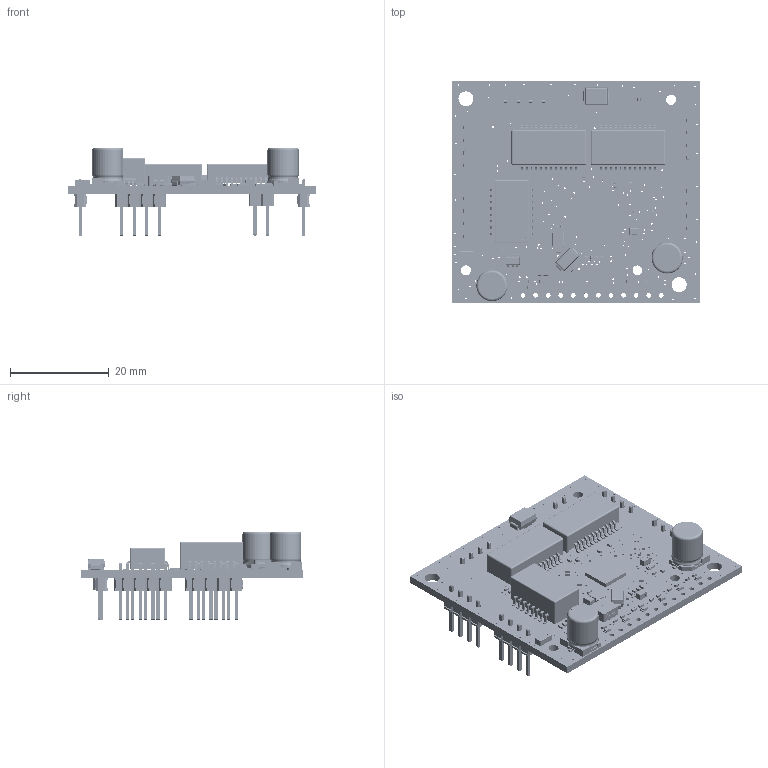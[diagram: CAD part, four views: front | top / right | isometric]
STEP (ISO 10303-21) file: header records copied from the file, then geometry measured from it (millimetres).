
FILE_DESCRIPTION(('Designed by EasyEDA Pro'),'2;1');
FILE_NAME('Open CASCADE Shape Model','2024-07-09T09:43:59',('Author'),( 'Open CASCADE'),'Open CASCADE STEP processor 7.8','Open CASCADE 7.8' ,'Unknown');
FILE_SCHEMA(('AUTOMOTIVE_DESIGN { 1 0 10303 214 1 1 1 1 }'));
Length unit declared in the file: millimetre
Products named in the file (109): PCBModel; TopTrack; BottomTrack; Board; Q59F-D3; SMAJ51; COMPOUND; Q59F-Y6; SM091; SOLID; Q59F-U4; QFN48; Q59F-TRS1; RJ45-8PIN; Q59F-TC1; CAP-E-SMD-D6.3; Q59F-TC4; Q59F-U13; SOT23-6; Q59F-R23; 0402; Q59F-R22; Q59F-R21; Q59F-R20; Q59F-R19; Q59F-R18; Q59F-R15; Q59F-R9; Q59F-R8; Q59F-R7; Q59F-R6; Q59F-R5; Q59F-R12; Q59F-R11; Q59F-R4; Q59F-R10; Q59F-R3; Q59F-R1; Q59F-R204; Q59F-R2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
Assembly tree (162 placements, depth 4):
  PCBModel
    TopTrack
    BottomTrack
    Board
    Q59F-D3
      SMAJ51
        COMPOUND
    Q59F-Y6
      SM091
        SOLID
    Q59F-U4
      QFN48
        COMPOUND
    Q59F-TRS1
      RJ45-8PIN
        COMPOUND
    Q59F-TC1
      CAP-E-SMD-D6.3
        SOLID
    Q59F-TC4
      CAP-E-SMD-D6.3
        SOLID
    Q59F-U13
      SOT23-6
        COMPOUND
    Q59F-R23
      0402
        SOLID
    Q59F-R22
      0402
        SOLID
    Q59F-R21
      0402
        SOLID
    Q59F-R20
      0402
        SOLID
    Q59F-R19
      0402
        SOLID
    Q59F-R18
      0402
        SOLID
    Q59F-R15
      0402
        SOLID
    Q59F-R9
      0402
        SOLID
    Q59F-R8
      0402
        SOLID
    Q59F-R7
      0402
        SOLID
    Q59F-R6
      0402
        SOLID
    Q59F-R5
      0402
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Bounding box: 49.97 x 44.97 x 17.89 mm (x, y, z)
Volume: 5888.1 mm3; surface area: 9056.1 mm2
Topology: 280 solids, 280 shells, 25406 faces, 67976 edges, 44372 vertices
Faces by surface type: plane 14449, bspline 7106, cylinder 3333, sphere 424, torus 94
Entity records: 345019 total; most frequent: CARTESIAN_POINT 84561, ORIENTED_EDGE 42600, DIRECTION 32434, EDGE_CURVE 21300, LINE 14398, VECTOR 14398, VERTEX_POINT 14106, AXIS2_PLACEMENT_3D 9018
